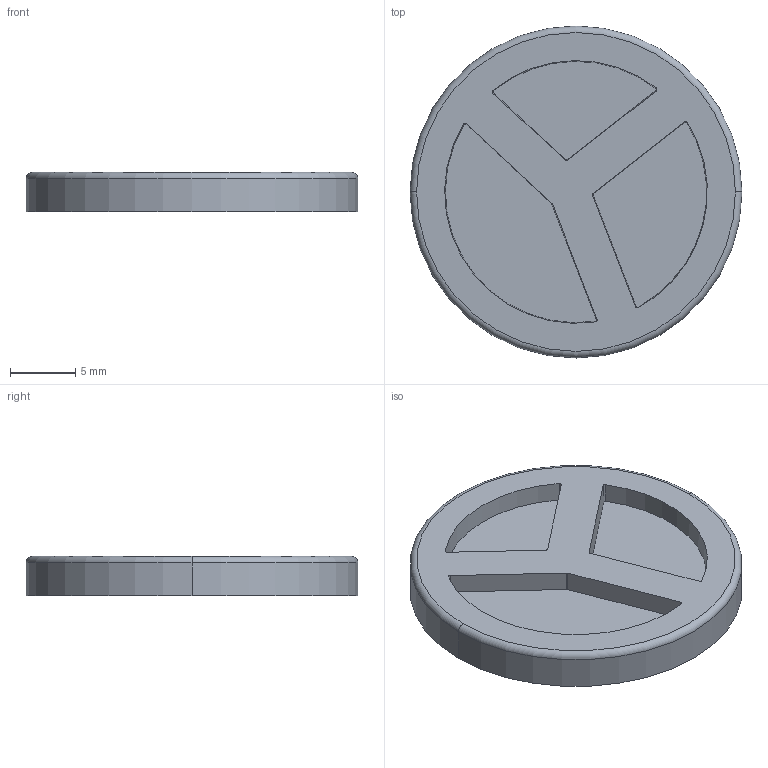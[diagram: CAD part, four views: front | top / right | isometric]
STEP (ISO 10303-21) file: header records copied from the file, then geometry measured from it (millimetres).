
FILE_DESCRIPTION((''),'2;1');
FILE_NAME('RANK6','2015-05-15T',('Daniel'),(''),'PRO/ENGINEER BY PARAMETRIC TECHNOLOGY CORPORATION, 2014000','PRO/ENGINEER BY PARAMETRIC TECHNOLOGY CORPORATION, 2014000','');
FILE_SCHEMA(('CONFIG_CONTROL_DESIGN'));
Length unit declared in the file: millimetre
Products named in the file (1): RANK6
Bounding box: 25.4 x 25.4 x 3 mm (x, y, z)
Volume: 1178.9 mm3; surface area: 1390.1 mm2
Topology: 1 solids, 1 shells, 27 faces, 64 edges, 42 vertices
Faces by surface type: cone 12, plane 11, torus 2, cylinder 2
Entity records: 832 total; most frequent: DIRECTION 150, CARTESIAN_POINT 133, ORIENTED_EDGE 128, EDGE_CURVE 64, AXIS2_PLACEMENT_3D 59, VERTEX_POINT 42, VECTOR 32, LINE 32
